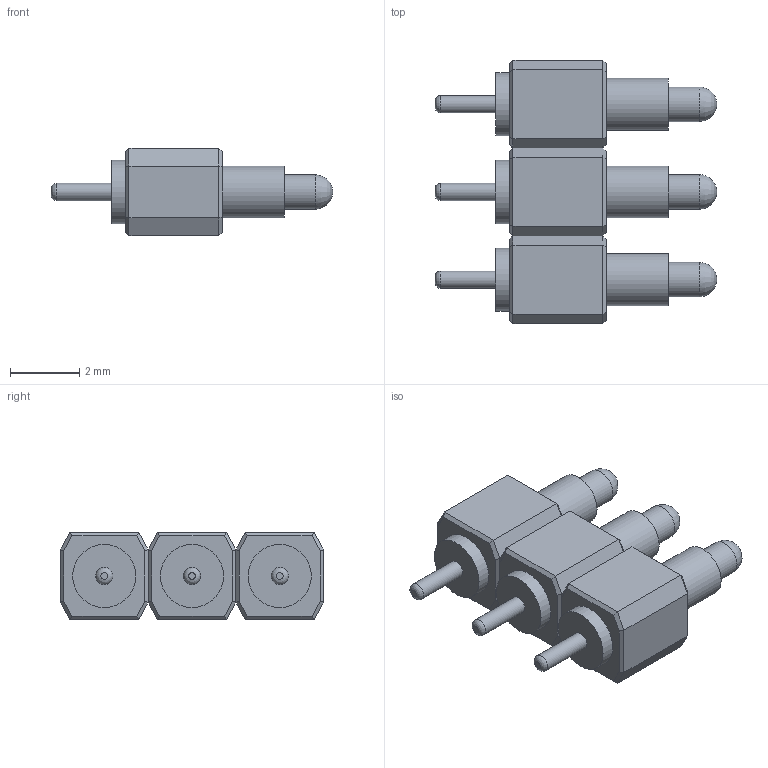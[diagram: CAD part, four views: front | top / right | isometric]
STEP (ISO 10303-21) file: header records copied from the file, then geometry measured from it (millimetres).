
FILE_DESCRIPTION(('FreeCAD Model'),'2;1');
FILE_NAME('Open CASCADE Shape Model','2024-10-25T12:05:18',('Author'),( ''),'Open CASCADE STEP processor 7.5','FreeCAD','Unknown');
FILE_SCHEMA(('AUTOMOTIVE_DESIGN { 1 0 10303 214 1 1 1 1 }'));
Length unit declared in the file: millimetre
Products named in the file (10): 816-22-003; P032; Body033; Contact017; P030; Body038; Contact019; P025; Body034; Contact018
Assembly tree (9 placements, depth 3):
  816-22-003
    P032
      Body033
      Contact017
    P030
      Body038
      Contact019
    P025
      Body034
      Contact018
Bounding box: 8.15 x 7.62 x 2.54 mm (x, y, z)
Volume: 68.2 mm3; surface area: 247.6 mm2
Topology: 6 solids, 6 shells, 114 faces, 225 edges, 132 vertices
Faces by surface type: plane 93, cylinder 15, revolution 6
Full cylindrical faces by diameter (mm): 0.5 x3, 1 x3, 1.5 x6, 1.83 x3
Entity records: 6052 total; most frequent: CARTESIAN_POINT 991, DIRECTION 956, LINE 603, VECTOR 603, ORIENTED_EDGE 450, PCURVE 450, DEFINITIONAL_REPRESENTATION 450, EDGE_CURVE 225
